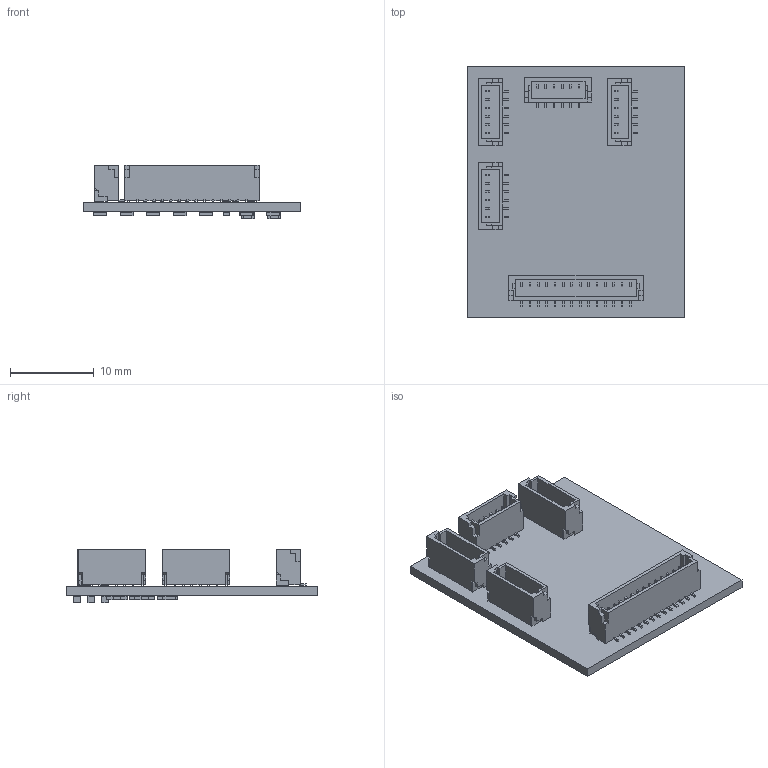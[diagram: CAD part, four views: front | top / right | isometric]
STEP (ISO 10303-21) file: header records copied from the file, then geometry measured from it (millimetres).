
FILE_DESCRIPTION(('KiCad electronic assembly'),'2;1');
FILE_NAME('PoseDoll_RevO3_distal4.step','2026-09-24T02:53:19',('Pcbnew') ,('Kicad'),'Open CASCADE STEP processor 7.9','KiCad to STEP converter' ,'Unknown');
FILE_SCHEMA(('AUTOMOTIVE_DESIGN { 1 0 10303 214 1 1 1 1 }'));
Length unit declared in the file: millimetre
Products named in the file (10): PoseDoll_RevO3_distal4 1; JST_SH_BM06B-SRSS-TB_1x06-1MP_P1.00mm_Vertical; JST_SH_BM14B-SRSS-TB_1x14-1MP_P1.00mm_Vertical; R_0603_1608Metric; C_0603_1608Metric; PoseDoll_RevO3_distal4_PCB
Assembly tree (48 placements, depth 3):
  PoseDoll_RevO3_distal4 1
    JST_SH_BM06B-SRSS-TB_1x06-1MP_P1.00mm_Vertical  x4
      JST_SH_BM06B-SRSS-TB_1x06-1MP_P1.00mm_Vertical
    JST_SH_BM14B-SRSS-TB_1x14-1MP_P1.00mm_Vertical
      JST_SH_BM14B-SRSS-TB_1x14-1MP_P1.00mm_Vertical
    R_0603_1608Metric  x33
      R_0603_1608Metric
    C_0603_1608Metric  x5
      C_0603_1608Metric
    PoseDoll_RevO3_distal4_PCB
Bounding box: 26 x 30 x 6.4 mm (x, y, z)
Volume: 1220 mm3; surface area: 3107 mm2
Topology: 44 solids, 44 shells, 1677 faces, 4436 edges, 2900 vertices
Faces by surface type: plane 1353, cylinder 324
Entity records: 15457 total; most frequent: CARTESIAN_POINT 2131, ORIENTED_EDGE 2048, DIRECTION 1926, EDGE_CURVE 1024, LINE 984, VECTOR 984, VERTEX_POINT 676, AXIS2_PLACEMENT_3D 471
